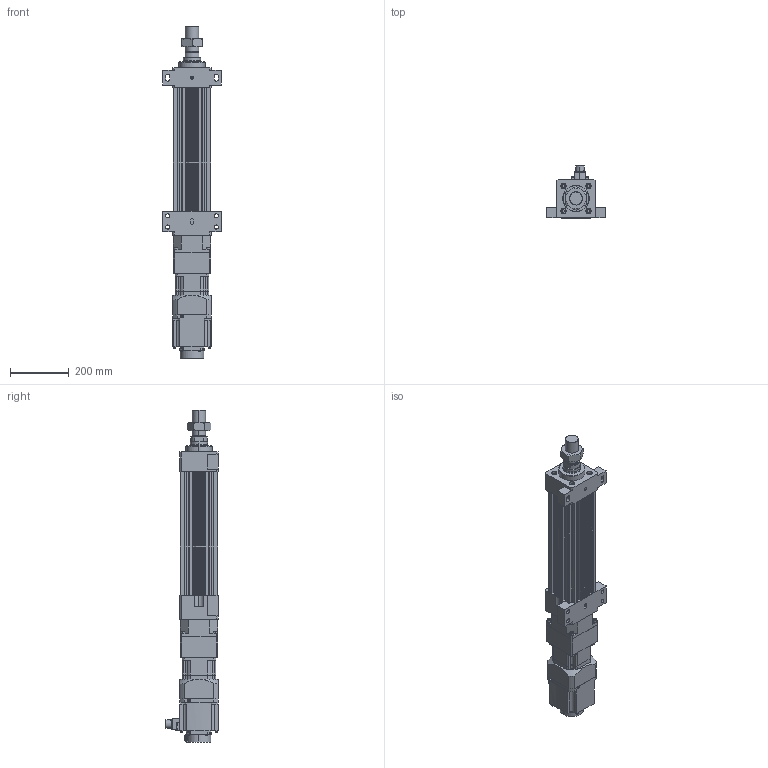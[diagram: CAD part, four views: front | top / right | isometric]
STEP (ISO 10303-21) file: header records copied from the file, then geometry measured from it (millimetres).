
FILE_DESCRIPTION (( 'STEP AP203' ), '1' );
FILE_NAME ('HES130NS(FS)(HS)-S200-W015G00-M-FFB.STEP', '2023-01-30T09:01:03', ( 'tms' ), ( '' ), 'SwSTEP 2.0', 'SolidWorks 2013', '' );
FILE_SCHEMA (( 'CONFIG_CONTROL_DESIGN' ));
Length unit declared in the file: millimetre
Products named in the file (8): M45X1.5P; HES130NS(FS)(HS)-S200-W015G00-M-FFB; P0401400706; HES130 ROD M ST200; HES130-S200-G120-FFB; AB1151; HG-SR152; AB115-003[HG-SR152]
Assembly tree (7 placements, depth 3):
  HES130NS(FS)(HS)-S200-W015G00-M-FFB
    HES130-S200-G120-FFB
    HES130 ROD M ST200
    M45X1.5P
    AB115-003[HG-SR152]
      AB1151
      P0401400706
    HG-SR152
Bounding box: 200 x 177.49 x 1129.5 mm (x, y, z)
Volume: 9028706.9 mm3; surface area: 1115587.1 mm2
Topology: 4 solids, 15 shells, 1211 faces, 3070 edges, 1998 vertices
Faces by surface type: plane 571, cylinder 546, cone 82, bspline 8, torus 4
Entity records: 38310 total; most frequent: CARTESIAN_POINT 7264, DIRECTION 6633, ORIENTED_EDGE 6092, EDGE_CURVE 3056, AXIS2_PLACEMENT_3D 2435, VERTEX_POINT 1998, LINE 1763, VECTOR 1763
